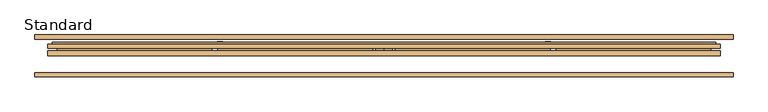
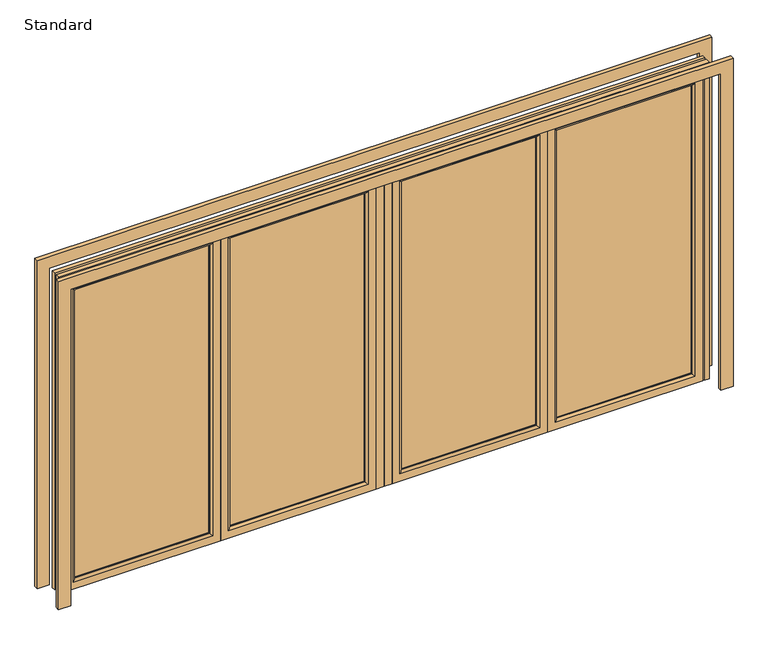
"""IFC4 building model written with IfcOpenShell, lengths in millimetres: door geometry, SMARTS_Visofold1000 : Standard."""

from ifc_helpers import new_model, si_unit, point, frame, frame_2d, origin, origin_with_axes, place, context, project, spatial, polyline, circle_curve, ellipse_curve, trimmed, segment, composite_curve, outline, extrude, faceted_brep, source, transform, mapped, element, save
from ifc_brep_helpers import plane_surface, cylinder_surface, advanced_brep


def standard_935e7b8d(model_context):
    return source(origin(), model_context, "Body", "SolidModel", [
        extrude(outline(composite_curve([segment(polyline([(1228.0996413, 959.0), (1040.0996413, 959.0)]), True, "CONTINUOUS"), segment(trimmed(circle_curve(frame_2d((1040.0996413, 975.0)), 16.0), [point((1040.0996413, 959.0))], [point((1040.0996413, 991.0))], False, "CARTESIAN"), True, "CONTINUOUS"), segment(polyline([(1040.0996413, 991.0), (1228.0996413, 991.0)]), True, "CONTINUOUS"), segment(trimmed(circle_curve(frame_2d((1228.0996413, 975.0)), 16.0), [point((1228.0996413, 991.0))], [point((1228.0996413, 959.0))], False, "CARTESIAN"), True, "CONTINUOUS")], self_intersect=False)), frame((0.0, 75.0, 0.0), z_axis=(0.0, 1.0, 0.0), x_axis=(0.0, 0.0, 1.0)), (0.0, 0.0, 1.0), 10.0),
        extrude(outline(polyline([(45.0, 960.0), (1955.0, 960.0), (1955.0, 95.0), (45.0, 95.0), (45.0, 960.0)]), holes=[polyline([(1939.5, 944.5), (60.5, 944.5), (60.5, 110.5), (1939.5, 110.5), (1939.5, 944.5)])]), frame((0.0, 17.4, 0.0), z_axis=(0.0, 1.0, 0.0), x_axis=(0.0, 0.0, 1.0)), (0.0, 0.0, 1.0), 35.0),
        faceted_brep([(1005.0, 74.4, 0.0), (1005.0, 74.4, 2000.0), (1005.0, 52.4, 2000.0), (1005.0, 52.4, 0.0), (944.5, 52.4, 60.5), (944.5, 52.4, 1939.5), (944.5, 74.4, 1939.5), (944.5, 74.4, 60.5), (50.0, 74.4, 2000.0), (50.0, 52.4, 2000.0), (110.5, 52.4, 1939.5), (110.5, 74.4, 1939.5), (50.0, 74.4, 0.0), (50.0, 52.4, 0.0), (110.5, 52.4, 60.5), (110.5, 74.4, 60.5), (987.1308519, 34.8, 17.8691481), (987.1308519, 34.8, 1982.1308519), (67.8691481, 34.8, 1982.1308519), (67.8691481, 34.8, 17.8691481), (960.0, 34.8, 1955.0), (960.0, 34.8, 45.0), (95.0, 34.8, 45.0), (95.0, 34.8, 1955.0), (987.1308519, 52.4, 17.8691481), (987.1308519, 52.4, 1982.1308519), (960.0, 52.4, 1955.0), (960.0, 52.4, 45.0), (67.8691481, 52.4, 1982.1308519), (95.0, 52.4, 1955.0), (67.8691481, 52.4, 17.8691481), (95.0, 52.4, 45.0)], [[[0, 1, 2, 3]], [[4, 5, 6, 7]], [[1, 8, 9, 2]], [[5, 10, 11, 6]], [[8, 12, 13, 9]], [[10, 14, 15, 11]], [[12, 0, 3, 13]], [[1, 0, 12, 8], [7, 6, 11, 15]], [[14, 4, 7, 15]], [[16, 17, 18, 19], [20, 21, 22, 23]], [[24, 25, 17, 16]], [[21, 20, 26, 27]], [[25, 28, 18, 17]], [[20, 23, 29, 26]], [[28, 30, 19, 18]], [[23, 22, 31, 29]], [[30, 24, 16, 19]], [[3, 2, 9, 13], [25, 24, 30, 28]], [[27, 26, 29, 31], [5, 4, 14, 10]], [[22, 21, 27, 31]]]),
        advanced_brep(
        [(944.5, 13.3, 60.5), (944.5, 13.3, 1939.5), (944.5, 17.4, 1939.5), (944.5, 17.4, 60.5), (1005.0, 17.4, 0.0), (1005.0, 17.4, 2000.0), (1005.0, 0.0, 2000.0), (1005.0, 0.0, 0.0), (110.5, 13.3, 1939.5), (110.5, 17.4, 1939.5), (50.0, 17.4, 2000.0), (50.0, 0.0, 2000.0), (110.5, 13.3, 60.5), (110.5, 17.4, 60.5), (50.0, 17.4, 0.0), (50.0, 0.0, 0.0), (957.8, 0.0, 1952.8), (957.8, 0.0, 47.2), (97.2, 0.0, 47.2), (97.2, 0.0, 1952.8), (987.1308519, 34.8, 17.8691481), (987.1308519, 34.8, 1982.1308519), (987.1308519, 17.4, 1982.1308519), (987.1308519, 17.4, 17.8691481), (67.8691481, 34.8, 1982.1308519), (67.8691481, 17.4, 1982.1308519), (67.8691481, 34.8, 17.8691481), (67.8691481, 17.4, 17.8691481), (960.0, 17.4, 45.0), (960.0, 17.4, 1955.0), (960.0, 34.8, 1955.0), (960.0, 34.8, 45.0), (95.0, 17.4, 1955.0), (95.0, 34.8, 1955.0), (95.0, 17.4, 45.0), (95.0, 34.8, 45.0)],
        [
            (0, 1),
            (1, 2),
            (2, 3),
            (3, 0),
            (4, 5),
            (5, 6),
            (6, 7),
            (7, 4),
            (1, 8),
            (8, 9),
            (9, 2),
            (5, 10),
            (10, 11),
            (11, 6),
            (8, 12),
            (12, 13),
            (13, 9),
            (10, 14),
            (14, 15),
            (15, 11),
            (12, 0),
            (3, 13),
            (15, 7),
            (16, 17),
            (17, 18),
            (18, 19),
            (19, 16),
            (14, 4),
            (16, 1, ellipse_curve(frame((957.8, 13.3, 1952.8), z_axis=(0.7071067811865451, 0.0, -0.7071067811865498), x_axis=(-0.7071067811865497, 0.0, -0.7071067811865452)), 18.8090404, 13.3)),
            (0, 17, ellipse_curve(frame((957.8, 13.3, 47.2), z_axis=(0.7071067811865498, 0.0, 0.7071067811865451), x_axis=(0.707106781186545, 0.0, -0.70710678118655)), 18.8090404, 13.3)),
            (19, 8, ellipse_curve(frame((97.2, 13.3, 1952.8), z_axis=(0.7071067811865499, 0.0, 0.7071067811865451), x_axis=(0.7071067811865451, 0.0, -0.7071067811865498)), 18.8090404, 13.3)),
            (18, 12, ellipse_curve(frame((97.2, 13.3, 47.2), z_axis=(-0.7071067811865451, 0.0, 0.7071067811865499), x_axis=(0.7071067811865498, 0.0, 0.7071067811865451)), 18.8090404, 13.3)),
            (20, 21),
            (21, 22),
            (22, 23),
            (23, 20),
            (21, 24),
            (24, 25),
            (25, 22),
            (24, 26),
            (26, 27),
            (27, 25),
            (27, 23),
            (26, 20),
            (28, 29),
            (29, 30),
            (30, 31),
            (31, 28),
            (29, 32),
            (32, 33),
            (33, 30),
            (32, 34),
            (34, 35),
            (35, 33),
            (34, 28),
            (31, 35),
        ],
        [
            plane_surface(frame((944.5, 17.4, 60.5), z_axis=(-1.0, 0.0, 0.0), x_axis=(0.0, 0.0, 1.0))),
            plane_surface(frame((1005.0, 0.0, 0.0), z_axis=(1.0, 0.0, 0.0), x_axis=(0.0, 0.0, 1.0))),
            plane_surface(frame((944.5, 17.4, 1939.5), z_axis=(0.0, 0.0, -1.0), x_axis=(-1.0, 0.0, 0.0))),
            plane_surface(frame((1005.0, 0.0, 2000.0), z_axis=(0.0, 0.0, 1.0), x_axis=(-1.0, 0.0, 0.0))),
            plane_surface(frame((110.5, 17.4, 1939.5), z_axis=(1.0, 0.0, 0.0), x_axis=(0.0, 0.0, -1.0))),
            plane_surface(frame((50.0, 0.0, 2000.0), z_axis=(-1.0, 0.0, 0.0), x_axis=(0.0, 0.0, -1.0))),
            plane_surface(frame((110.5, 17.4, 60.5), z_axis=(0.0, 0.0, 1.0), x_axis=(1.0, 0.0, 0.0))),
            plane_surface(frame((97.2, 0.0, 47.2), z_axis=(0.0, -1.0, 0.0), x_axis=(1.0, 0.0, 0.0))),
            plane_surface(frame((50.0, 0.0, 0.0), z_axis=(0.0, 0.0, -1.0), x_axis=(1.0, 0.0, 0.0))),
            cylinder_surface(frame((957.8, 13.3, 0.0), z_axis=(0.0, 0.0, -1.0), x_axis=(0.0, 1.0, 0.0)), 13.3),
            cylinder_surface(frame((1005.0, 13.3, 1952.8), z_axis=(1.0, 0.0, 0.0), x_axis=(0.0, 1.0, 0.0)), 13.3),
            cylinder_surface(frame((97.2, 13.3, 2000.0), z_axis=(0.0, 0.0, 1.0), x_axis=(0.0, 1.0, 0.0)), 13.3),
            cylinder_surface(frame((50.0, 13.3, 47.2), z_axis=(-1.0, 0.0, 0.0), x_axis=(0.0, 1.0, 0.0)), 13.3),
            plane_surface(frame((987.1308519, 17.4, 17.8691481), z_axis=(1.0, 0.0, 0.0), x_axis=(0.0, 0.0, 1.0))),
            plane_surface(frame((987.1308519, 17.4, 1982.1308519), z_axis=(0.0, 0.0, 1.0), x_axis=(-1.0, 0.0, 0.0))),
            plane_surface(frame((67.8691481, 17.4, 1982.1308519), z_axis=(-1.0, 0.0, 0.0), x_axis=(0.0, 0.0, -1.0))),
            plane_surface(frame((50.0, 17.4, 0.0), z_axis=(0.0, 1.0, 0.0), x_axis=(1.0, 0.0, 0.0))),
            plane_surface(frame((67.8691481, 17.4, 17.8691481), z_axis=(0.0, 0.0, -1.0), x_axis=(1.0, 0.0, 0.0))),
            plane_surface(frame((960.0, 34.8, 45.0), z_axis=(-1.0, 0.0, 0.0), x_axis=(0.0, 0.0, 1.0))),
            plane_surface(frame((960.0, 34.8, 1955.0), z_axis=(0.0, 0.0, -1.0), x_axis=(-1.0, 0.0, 0.0))),
            plane_surface(frame((95.0, 34.8, 1955.0), z_axis=(1.0, 0.0, 0.0), x_axis=(0.0, 0.0, -1.0))),
            plane_surface(frame((95.0, 34.8, 45.0), z_axis=(0.0, 0.0, 1.0), x_axis=(1.0, 0.0, 0.0))),
            plane_surface(frame((95.0, 17.4, 45.0), z_axis=(0.0, 1.0, 0.0), x_axis=(1.0, 0.0, 0.0))),
            plane_surface(frame((67.8691481, 34.8, 17.8691481), z_axis=(0.0, 1.0, 0.0), x_axis=(1.0, 0.0, 0.0))),
        ],
        [
            (0, [[1, 2, 3, 4]]),
            (1, [[5, 6, 7, 8]]),
            (2, [[9, 10, 11, -2]]),
            (3, [[12, 13, 14, -6]]),
            (4, [[15, 16, 17, -10]]),
            (5, [[18, 19, 20, -13]]),
            (6, [[21, -4, 22, -16]]),
            (7, [[-7, -14, -20, 23], [24, 25, 26, 27]]),
            (8, [[28, -8, -23, -19]]),
            (9, [[-24, 29, -1, 30]]),
            (10, [[-27, 31, -9, -29]]),
            (11, [[-26, 32, -15, -31]]),
            (12, [[-25, -30, -21, -32]]),
            (13, [[33, 34, 35, 36]]),
            (14, [[37, 38, 39, -34]]),
            (15, [[40, 41, 42, -38]]),
            (16, [[-5, -28, -18, -12], [-35, -39, -42, 43]]),
            (17, [[44, -36, -43, -41]]),
            (18, [[45, 46, 47, 48]]),
            (19, [[49, 50, 51, -46]]),
            (20, [[52, 53, 54, -50]]),
            (21, [[55, -48, 56, -53]]),
            (22, [[-45, -55, -52, -49], [-3, -11, -17, -22]]),
            (23, [[-33, -44, -40, -37], [-47, -51, -54, -56]]),
        ],
    ),
        extrude(outline(polyline([(944.5, 50.1484783), (944.5, 21.4), (110.5, 21.4), (110.5, 50.1484783), (944.5, 50.1484783)])), frame((0.0, 0.0, 60.5), z_axis=(0.0, 0.0, 1.0), x_axis=(1.0, 0.0, 0.0)), (0.0, 0.0, 1.0), 1879.0),
        extrude(outline(polyline([(45.0, 1050.0), (45.0, 1915.0), (1955.0, 1915.0), (1955.0, 1050.0), (45.0, 1050.0)]), holes=[polyline([(1939.5, 1065.5), (1939.5, 1899.5), (60.5, 1899.5), (60.5, 1065.5), (1939.5, 1065.5)])]), frame((0.0, 17.4, 0.0), z_axis=(0.0, 1.0, 0.0), x_axis=(0.0, 0.0, 1.0)), (0.0, 0.0, 1.0), 35.0),
        faceted_brep([(1005.0, 74.4, 0.0), (1005.0, 52.4, 0.0), (1005.0, 52.4, 2000.0), (1005.0, 74.4, 2000.0), (1065.5, 52.4, 60.5), (1065.5, 74.4, 60.5), (1065.5, 74.4, 1939.5), (1065.5, 52.4, 1939.5), (1960.0, 74.4, 0.0), (1960.0, 52.4, 0.0), (1960.0, 52.4, 2000.0), (1960.0, 74.4, 2000.0), (1899.5, 74.4, 1939.5), (1899.5, 52.4, 1939.5), (1899.5, 74.4, 60.5), (1899.5, 52.4, 60.5), (1022.8691481, 34.8, 17.8691481), (1942.1308519, 34.8, 17.8691481), (1942.1308519, 34.8, 1982.1308519), (1022.8691481, 34.8, 1982.1308519), (1050.0, 34.8, 1955.0), (1915.0, 34.8, 1955.0), (1915.0, 34.8, 45.0), (1050.0, 34.8, 45.0), (1022.8691481, 52.4, 17.8691481), (1022.8691481, 52.4, 1982.1308519), (1050.0, 52.4, 45.0), (1050.0, 52.4, 1955.0), (1942.1308519, 52.4, 1982.1308519), (1915.0, 52.4, 1955.0), (1942.1308519, 52.4, 17.8691481), (1915.0, 52.4, 45.0)], [[[0, 1, 2, 3]], [[4, 5, 6, 7]], [[8, 9, 1, 0]], [[3, 2, 10, 11]], [[7, 6, 12, 13]], [[11, 10, 9, 8]], [[13, 12, 14, 15]], [[3, 11, 8, 0], [5, 14, 12, 6]], [[15, 14, 5, 4]], [[16, 17, 18, 19], [20, 21, 22, 23]], [[24, 16, 19, 25]], [[23, 26, 27, 20]], [[25, 19, 18, 28]], [[20, 27, 29, 21]], [[28, 18, 17, 30]], [[21, 29, 31, 22]], [[30, 17, 16, 24]], [[1, 9, 10, 2], [25, 28, 30, 24]], [[26, 31, 29, 27], [7, 13, 15, 4]], [[22, 31, 26, 23]]]),
        advanced_brep(
        [(1065.5, 13.3, 60.5), (1065.5, 17.4, 60.5), (1065.5, 17.4, 1939.5), (1065.5, 13.3, 1939.5), (1005.0, 17.4, 0.0), (1005.0, 0.0, 0.0), (1005.0, 0.0, 2000.0), (1005.0, 17.4, 2000.0), (1899.5, 17.4, 1939.5), (1899.5, 13.3, 1939.5), (1960.0, 0.0, 2000.0), (1960.0, 17.4, 2000.0), (1899.5, 17.4, 60.5), (1899.5, 13.3, 60.5), (1960.0, 0.0, 0.0), (1960.0, 17.4, 0.0), (1052.2, 0.0, 1952.8), (1912.8, 0.0, 1952.8), (1912.8, 0.0, 47.2), (1052.2, 0.0, 47.2), (1022.8691481, 34.8, 17.8691481), (1022.8691481, 17.4, 17.8691481), (1022.8691481, 17.4, 1982.1308519), (1022.8691481, 34.8, 1982.1308519), (1942.1308519, 17.4, 1982.1308519), (1942.1308519, 34.8, 1982.1308519), (1942.1308519, 17.4, 17.8691481), (1942.1308519, 34.8, 17.8691481), (1050.0, 17.4, 45.0), (1050.0, 34.8, 45.0), (1050.0, 34.8, 1955.0), (1050.0, 17.4, 1955.0), (1915.0, 34.8, 1955.0), (1915.0, 17.4, 1955.0), (1915.0, 34.8, 45.0), (1915.0, 17.4, 45.0)],
        [
            (0, 1),
            (1, 2),
            (2, 3),
            (3, 0),
            (4, 5),
            (5, 6),
            (6, 7),
            (7, 4),
            (2, 8),
            (8, 9),
            (9, 3),
            (6, 10),
            (10, 11),
            (11, 7),
            (8, 12),
            (12, 13),
            (13, 9),
            (10, 14),
            (14, 15),
            (15, 11),
            (12, 1),
            (0, 13),
            (5, 14),
            (16, 17),
            (17, 18),
            (18, 19),
            (19, 16),
            (4, 15),
            (19, 0, ellipse_curve(frame((1052.2, 13.3, 47.2), z_axis=(-0.7071067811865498, 0.0, 0.7071067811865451), x_axis=(-0.707106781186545, 0.0, -0.70710678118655)), 18.8090404, 13.3)),
            (3, 16, ellipse_curve(frame((1052.2, 13.3, 1952.8), z_axis=(-0.7071067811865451, 0.0, -0.7071067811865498), x_axis=(0.7071067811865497, 0.0, -0.7071067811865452)), 18.8090404, 13.3)),
            (9, 17, ellipse_curve(frame((1912.8, 13.3, 1952.8), z_axis=(-0.7071067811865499, 0.0, 0.7071067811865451), x_axis=(-0.7071067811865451, 0.0, -0.7071067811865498)), 18.8090404, 13.3)),
            (13, 18, ellipse_curve(frame((1912.8, 13.3, 47.2), z_axis=(0.7071067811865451, 0.0, 0.7071067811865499), x_axis=(-0.7071067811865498, 0.0, 0.7071067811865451)), 18.8090404, 13.3)),
            (20, 21),
            (21, 22),
            (22, 23),
            (23, 20),
            (22, 24),
            (24, 25),
            (25, 23),
            (24, 26),
            (26, 27),
            (27, 25),
            (21, 26),
            (20, 27),
            (28, 29),
            (29, 30),
            (30, 31),
            (31, 28),
            (30, 32),
            (32, 33),
            (33, 31),
            (32, 34),
            (34, 35),
            (35, 33),
            (34, 29),
            (28, 35),
        ],
        [
            plane_surface(frame((1065.5, 17.4, 60.5), z_axis=(1.0, 0.0, 0.0), x_axis=(0.0, 0.0, 1.0))),
            plane_surface(frame((1005.0, 0.0, 0.0), z_axis=(-1.0, 0.0, 0.0), x_axis=(0.0, 0.0, 1.0))),
            plane_surface(frame((1065.5, 17.4, 1939.5), z_axis=(0.0, 0.0, -1.0), x_axis=(1.0, 0.0, 0.0))),
            plane_surface(frame((1005.0, 0.0, 2000.0), z_axis=(0.0, 0.0, 1.0), x_axis=(1.0, 0.0, 0.0))),
            plane_surface(frame((1899.5, 17.4, 1939.5), z_axis=(-1.0, 0.0, 0.0), x_axis=(0.0, 0.0, -1.0))),
            plane_surface(frame((1960.0, 0.0, 2000.0), z_axis=(1.0, 0.0, 0.0), x_axis=(0.0, 0.0, -1.0))),
            plane_surface(frame((1899.5, 17.4, 60.5), z_axis=(0.0, 0.0, 1.0), x_axis=(-1.0, 0.0, 0.0))),
            plane_surface(frame((1912.8, 0.0, 47.2), z_axis=(0.0, -1.0, 0.0), x_axis=(-1.0, 0.0, 0.0))),
            plane_surface(frame((1960.0, 0.0, 0.0), z_axis=(0.0, 0.0, -1.0), x_axis=(-1.0, 0.0, 0.0))),
            cylinder_surface(frame((1052.2, 13.3, 0.0), z_axis=(0.0, 0.0, -1.0), x_axis=(0.0, 1.0, 0.0)), 13.3),
            cylinder_surface(frame((1005.0, 13.3, 1952.8), z_axis=(-1.0, 0.0, 0.0), x_axis=(0.0, 1.0, 0.0)), 13.3),
            cylinder_surface(frame((1912.8, 13.3, 2000.0), z_axis=(0.0, 0.0, 1.0), x_axis=(0.0, 1.0, 0.0)), 13.3),
            cylinder_surface(frame((1960.0, 13.3, 47.2), z_axis=(1.0, 0.0, 0.0), x_axis=(0.0, 1.0, 0.0)), 13.3),
            plane_surface(frame((1022.8691481, 17.4, 17.8691481), z_axis=(-1.0, 0.0, 0.0), x_axis=(0.0, 0.0, 1.0))),
            plane_surface(frame((1022.8691481, 17.4, 1982.1308519), z_axis=(0.0, 0.0, 1.0), x_axis=(1.0, 0.0, 0.0))),
            plane_surface(frame((1942.1308519, 17.4, 1982.1308519), z_axis=(1.0, 0.0, 0.0), x_axis=(0.0, 0.0, -1.0))),
            plane_surface(frame((1960.0, 17.4, 0.0), z_axis=(0.0, 1.0, 0.0), x_axis=(-1.0, 0.0, 0.0))),
            plane_surface(frame((1942.1308519, 17.4, 17.8691481), z_axis=(0.0, 0.0, -1.0), x_axis=(-1.0, 0.0, 0.0))),
            plane_surface(frame((1050.0, 34.8, 45.0), z_axis=(1.0, 0.0, 0.0), x_axis=(0.0, 0.0, 1.0))),
            plane_surface(frame((1050.0, 34.8, 1955.0), z_axis=(0.0, 0.0, -1.0), x_axis=(1.0, 0.0, 0.0))),
            plane_surface(frame((1915.0, 34.8, 1955.0), z_axis=(-1.0, 0.0, 0.0), x_axis=(0.0, 0.0, -1.0))),
            plane_surface(frame((1915.0, 34.8, 45.0), z_axis=(0.0, 0.0, 1.0), x_axis=(-1.0, 0.0, 0.0))),
            plane_surface(frame((1915.0, 17.4, 45.0), z_axis=(0.0, 1.0, 0.0), x_axis=(-1.0, 0.0, 0.0))),
            plane_surface(frame((1942.1308519, 34.8, 17.8691481), z_axis=(0.0, 1.0, 0.0), x_axis=(-1.0, 0.0, 0.0))),
        ],
        [
            (0, [[1, 2, 3, 4]]),
            (1, [[5, 6, 7, 8]]),
            (2, [[-3, 9, 10, 11]]),
            (3, [[-7, 12, 13, 14]]),
            (4, [[-10, 15, 16, 17]]),
            (5, [[-13, 18, 19, 20]]),
            (6, [[-16, 21, -1, 22]]),
            (7, [[23, -18, -12, -6], [24, 25, 26, 27]]),
            (8, [[-19, -23, -5, 28]]),
            (9, [[29, -4, 30, -27]]),
            (10, [[-30, -11, 31, -24]]),
            (11, [[-31, -17, 32, -25]]),
            (12, [[-32, -22, -29, -26]]),
            (13, [[33, 34, 35, 36]]),
            (14, [[-35, 37, 38, 39]]),
            (15, [[-38, 40, 41, 42]]),
            (16, [[-14, -20, -28, -8], [43, -40, -37, -34]]),
            (17, [[-41, -43, -33, 44]]),
            (18, [[45, 46, 47, 48]]),
            (19, [[-47, 49, 50, 51]]),
            (20, [[-50, 52, 53, 54]]),
            (21, [[-53, 55, -45, 56]]),
            (22, [[-51, -54, -56, -48], [-21, -15, -9, -2]]),
            (23, [[-39, -42, -44, -36], [-55, -52, -49, -46]]),
        ],
    ),
        extrude(outline(polyline([(1065.5, 50.1484783), (1899.5, 50.1484783), (1899.5, 21.4), (1065.5, 21.4), (1065.5, 50.1484783)])), frame((0.0, 0.0, 60.5), z_axis=(0.0, 0.0, 1.0), x_axis=(1.0, 0.0, 0.0)), (0.0, 0.0, 1.0), 1879.0),
        extrude(outline(polyline([(0.0, 0.0), (0.0, 75.1750992), (50.0, 75.1750992), (50.0, 0.0), (0.0, 0.0)])), origin_with_axes(), (0.0, 0.0, 1.0), 2000.0),
        extrude(outline(composite_curve([segment(trimmed(circle_curve(frame_2d((1228.0996413, -975.0)), 16.0), [point((1228.0996413, -959.0))], [point((1228.0996413, -991.0))], False, "CARTESIAN"), True, "CONTINUOUS"), segment(polyline([(1228.0996413, -991.0), (1040.0996413, -991.0)]), True, "CONTINUOUS"), segment(trimmed(circle_curve(frame_2d((1040.0996413, -975.0)), 16.0), [point((1040.0996413, -991.0))], [point((1040.0996413, -959.0))], False, "CARTESIAN"), True, "CONTINUOUS"), segment(polyline([(1040.0996413, -959.0), (1228.0996413, -959.0)]), True, "CONTINUOUS")], self_intersect=False)), frame((0.0, 75.0, 0.0), z_axis=(0.0, 1.0, 0.0), x_axis=(0.0, 0.0, 1.0)), (0.0, 0.0, 1.0), 10.0),
        extrude(outline(polyline([(45.0, -960.0), (45.0, -95.0), (1955.0, -95.0), (1955.0, -960.0), (45.0, -960.0)]), holes=[polyline([(1939.5, -944.5), (1939.5, -110.5), (60.5, -110.5), (60.5, -944.5), (1939.5, -944.5)])]), frame((0.0, 17.4, 0.0), z_axis=(0.0, 1.0, 0.0), x_axis=(0.0, 0.0, 1.0)), (0.0, 0.0, 1.0), 35.0),
        faceted_brep([(-1005.0, 74.4, 0.0), (-1005.0, 52.4, 0.0), (-1005.0, 52.4, 2000.0), (-1005.0, 74.4, 2000.0), (-944.5, 52.4, 60.5), (-944.5, 74.4, 60.5), (-944.5, 74.4, 1939.5), (-944.5, 52.4, 1939.5), (-50.0, 52.4, 2000.0), (-50.0, 74.4, 2000.0), (-110.5, 74.4, 1939.5), (-110.5, 52.4, 1939.5), (-50.0, 52.4, 0.0), (-50.0, 74.4, 0.0), (-110.5, 74.4, 60.5), (-110.5, 52.4, 60.5), (-987.1308519, 34.8, 17.8691481), (-67.8691481, 34.8, 17.8691481), (-67.8691481, 34.8, 1982.1308519), (-987.1308519, 34.8, 1982.1308519), (-960.0, 34.8, 1955.0), (-95.0, 34.8, 1955.0), (-95.0, 34.8, 45.0), (-960.0, 34.8, 45.0), (-987.1308519, 52.4, 17.8691481), (-987.1308519, 52.4, 1982.1308519), (-960.0, 52.4, 45.0), (-960.0, 52.4, 1955.0), (-67.8691481, 52.4, 1982.1308519), (-95.0, 52.4, 1955.0), (-67.8691481, 52.4, 17.8691481), (-95.0, 52.4, 45.0)], [[[0, 1, 2, 3]], [[4, 5, 6, 7]], [[3, 2, 8, 9]], [[7, 6, 10, 11]], [[9, 8, 12, 13]], [[11, 10, 14, 15]], [[13, 12, 1, 0]], [[3, 9, 13, 0], [5, 14, 10, 6]], [[15, 14, 5, 4]], [[16, 17, 18, 19], [20, 21, 22, 23]], [[24, 16, 19, 25]], [[23, 26, 27, 20]], [[25, 19, 18, 28]], [[20, 27, 29, 21]], [[28, 18, 17, 30]], [[21, 29, 31, 22]], [[30, 17, 16, 24]], [[1, 12, 8, 2], [25, 28, 30, 24]], [[26, 31, 29, 27], [7, 11, 15, 4]], [[22, 31, 26, 23]]]),
        advanced_brep(
        [(-944.5, 13.3, 60.5), (-944.5, 17.4, 60.5), (-944.5, 17.4, 1939.5), (-944.5, 13.3, 1939.5), (-1005.0, 17.4, 0.0), (-1005.0, 0.0, 0.0), (-1005.0, 0.0, 2000.0), (-1005.0, 17.4, 2000.0), (-110.5, 17.4, 1939.5), (-110.5, 13.3, 1939.5), (-50.0, 0.0, 2000.0), (-50.0, 17.4, 2000.0), (-110.5, 17.4, 60.5), (-110.5, 13.3, 60.5), (-50.0, 0.0, 0.0), (-50.0, 17.4, 0.0), (-957.8, 0.0, 1952.8), (-97.2, 0.0, 1952.8), (-97.2, 0.0, 47.2), (-957.8, 0.0, 47.2), (-987.1308519, 34.8, 17.8691481), (-987.1308519, 17.4, 17.8691481), (-987.1308519, 17.4, 1982.1308519), (-987.1308519, 34.8, 1982.1308519), (-67.8691481, 17.4, 1982.1308519), (-67.8691481, 34.8, 1982.1308519), (-67.8691481, 17.4, 17.8691481), (-67.8691481, 34.8, 17.8691481), (-960.0, 17.4, 45.0), (-960.0, 34.8, 45.0), (-960.0, 34.8, 1955.0), (-960.0, 17.4, 1955.0), (-95.0, 34.8, 1955.0), (-95.0, 17.4, 1955.0), (-95.0, 34.8, 45.0), (-95.0, 17.4, 45.0)],
        [
            (0, 1),
            (1, 2),
            (2, 3),
            (3, 0),
            (4, 5),
            (5, 6),
            (6, 7),
            (7, 4),
            (2, 8),
            (8, 9),
            (9, 3),
            (6, 10),
            (10, 11),
            (11, 7),
            (8, 12),
            (12, 13),
            (13, 9),
            (10, 14),
            (14, 15),
            (15, 11),
            (12, 1),
            (0, 13),
            (5, 14),
            (16, 17),
            (17, 18),
            (18, 19),
            (19, 16),
            (4, 15),
            (19, 0, ellipse_curve(frame((-957.8, 13.3, 47.2), z_axis=(-0.7071067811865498, 0.0, 0.7071067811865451), x_axis=(-0.707106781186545, 0.0, -0.70710678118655)), 18.8090404, 13.3)),
            (3, 16, ellipse_curve(frame((-957.8, 13.3, 1952.8), z_axis=(-0.7071067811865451, 0.0, -0.7071067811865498), x_axis=(0.7071067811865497, 0.0, -0.7071067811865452)), 18.8090404, 13.3)),
            (9, 17, ellipse_curve(frame((-97.2, 13.3, 1952.8), z_axis=(-0.7071067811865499, 0.0, 0.7071067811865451), x_axis=(-0.7071067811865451, 0.0, -0.7071067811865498)), 18.8090404, 13.3)),
            (13, 18, ellipse_curve(frame((-97.2, 13.3, 47.2), z_axis=(0.7071067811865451, 0.0, 0.7071067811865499), x_axis=(-0.7071067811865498, 0.0, 0.7071067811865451)), 18.8090404, 13.3)),
            (20, 21),
            (21, 22),
            (22, 23),
            (23, 20),
            (22, 24),
            (24, 25),
            (25, 23),
            (24, 26),
            (26, 27),
            (27, 25),
            (21, 26),
            (20, 27),
            (28, 29),
            (29, 30),
            (30, 31),
            (31, 28),
            (30, 32),
            (32, 33),
            (33, 31),
            (32, 34),
            (34, 35),
            (35, 33),
            (34, 29),
            (28, 35),
        ],
        [
            plane_surface(frame((-944.5, 17.4, 60.5), z_axis=(1.0, 0.0, 0.0), x_axis=(0.0, 0.0, 1.0))),
            plane_surface(frame((-1005.0, 0.0, 0.0), z_axis=(-1.0, 0.0, 0.0), x_axis=(0.0, 0.0, 1.0))),
            plane_surface(frame((-944.5, 17.4, 1939.5), z_axis=(0.0, 0.0, -1.0), x_axis=(1.0, 0.0, 0.0))),
            plane_surface(frame((-1005.0, 0.0, 2000.0), z_axis=(0.0, 0.0, 1.0), x_axis=(1.0, 0.0, 0.0))),
            plane_surface(frame((-110.5, 17.4, 1939.5), z_axis=(-1.0, 0.0, 0.0), x_axis=(0.0, 0.0, -1.0))),
            plane_surface(frame((-50.0, 0.0, 2000.0), z_axis=(1.0, 0.0, 0.0), x_axis=(0.0, 0.0, -1.0))),
            plane_surface(frame((-110.5, 17.4, 60.5), z_axis=(0.0, 0.0, 1.0), x_axis=(-1.0, 0.0, 0.0))),
            plane_surface(frame((-97.2, 0.0, 47.2), z_axis=(0.0, -1.0, 0.0), x_axis=(-1.0, 0.0, 0.0))),
            plane_surface(frame((-50.0, 0.0, 0.0), z_axis=(0.0, 0.0, -1.0), x_axis=(-1.0, 0.0, 0.0))),
            cylinder_surface(frame((-957.8, 13.3, 0.0), z_axis=(0.0, 0.0, -1.0), x_axis=(0.0, 1.0, 0.0)), 13.3),
            cylinder_surface(frame((-1005.0, 13.3, 1952.8), z_axis=(-1.0, 0.0, 0.0), x_axis=(0.0, 1.0, 0.0)), 13.3),
            cylinder_surface(frame((-97.2, 13.3, 2000.0), z_axis=(0.0, 0.0, 1.0), x_axis=(0.0, 1.0, 0.0)), 13.3),
            cylinder_surface(frame((-50.0, 13.3, 47.2), z_axis=(1.0, 0.0, 0.0), x_axis=(0.0, 1.0, 0.0)), 13.3),
            plane_surface(frame((-987.1308519, 17.4, 17.8691481), z_axis=(-1.0, 0.0, 0.0), x_axis=(0.0, 0.0, 1.0))),
            plane_surface(frame((-987.1308519, 17.4, 1982.1308519), z_axis=(0.0, 0.0, 1.0), x_axis=(1.0, 0.0, 0.0))),
            plane_surface(frame((-67.8691481, 17.4, 1982.1308519), z_axis=(1.0, 0.0, 0.0), x_axis=(0.0, 0.0, -1.0))),
            plane_surface(frame((-50.0, 17.4, 0.0), z_axis=(0.0, 1.0, 0.0), x_axis=(-1.0, 0.0, 0.0))),
            plane_surface(frame((-67.8691481, 17.4, 17.8691481), z_axis=(0.0, 0.0, -1.0), x_axis=(-1.0, 0.0, 0.0))),
            plane_surface(frame((-960.0, 34.8, 45.0), z_axis=(1.0, 0.0, 0.0), x_axis=(0.0, 0.0, 1.0))),
            plane_surface(frame((-960.0, 34.8, 1955.0), z_axis=(0.0, 0.0, -1.0), x_axis=(1.0, 0.0, 0.0))),
            plane_surface(frame((-95.0, 34.8, 1955.0), z_axis=(-1.0, 0.0, 0.0), x_axis=(0.0, 0.0, -1.0))),
            plane_surface(frame((-95.0, 34.8, 45.0), z_axis=(0.0, 0.0, 1.0), x_axis=(-1.0, 0.0, 0.0))),
            plane_surface(frame((-95.0, 17.4, 45.0), z_axis=(0.0, 1.0, 0.0), x_axis=(-1.0, 0.0, 0.0))),
            plane_surface(frame((-67.8691481, 34.8, 17.8691481), z_axis=(0.0, 1.0, 0.0), x_axis=(-1.0, 0.0, 0.0))),
        ],
        [
            (0, [[1, 2, 3, 4]]),
            (1, [[5, 6, 7, 8]]),
            (2, [[-3, 9, 10, 11]]),
            (3, [[-7, 12, 13, 14]]),
            (4, [[-10, 15, 16, 17]]),
            (5, [[-13, 18, 19, 20]]),
            (6, [[-16, 21, -1, 22]]),
            (7, [[23, -18, -12, -6], [24, 25, 26, 27]]),
            (8, [[-19, -23, -5, 28]]),
            (9, [[29, -4, 30, -27]]),
            (10, [[-30, -11, 31, -24]]),
            (11, [[-31, -17, 32, -25]]),
            (12, [[-32, -22, -29, -26]]),
            (13, [[33, 34, 35, 36]]),
            (14, [[-35, 37, 38, 39]]),
            (15, [[-38, 40, 41, 42]]),
            (16, [[-14, -20, -28, -8], [43, -40, -37, -34]]),
            (17, [[-41, -43, -33, 44]]),
            (18, [[45, 46, 47, 48]]),
            (19, [[-47, 49, 50, 51]]),
            (20, [[-50, 52, 53, 54]]),
            (21, [[-53, 55, -45, 56]]),
            (22, [[-51, -54, -56, -48], [-21, -15, -9, -2]]),
            (23, [[-39, -42, -44, -36], [-55, -52, -49, -46]]),
        ],
    ),
        extrude(outline(polyline([(-944.5, 50.1484783), (-110.5, 50.1484783), (-110.5, 21.4), (-944.5, 21.4), (-944.5, 50.1484783)])), frame((0.0, 0.0, 60.5), z_axis=(0.0, 0.0, 1.0), x_axis=(1.0, 0.0, 0.0)), (0.0, 0.0, 1.0), 1879.0),
        extrude(outline(polyline([(45.0, -1050.0), (1955.0, -1050.0), (1955.0, -1915.0), (45.0, -1915.0), (45.0, -1050.0)]), holes=[polyline([(1939.5, -1065.5), (60.5, -1065.5), (60.5, -1899.5), (1939.5, -1899.5), (1939.5, -1065.5)])]), frame((0.0, 17.4, 0.0), z_axis=(0.0, 1.0, 0.0), x_axis=(0.0, 0.0, 1.0)), (0.0, 0.0, 1.0), 35.0),
        faceted_brep([(-1005.0, 74.4, 0.0), (-1005.0, 74.4, 2000.0), (-1005.0, 52.4, 2000.0), (-1005.0, 52.4, 0.0), (-1065.5, 52.4, 60.5), (-1065.5, 52.4, 1939.5), (-1065.5, 74.4, 1939.5), (-1065.5, 74.4, 60.5), (-1960.0, 74.4, 0.0), (-1960.0, 52.4, 0.0), (-1960.0, 74.4, 2000.0), (-1960.0, 52.4, 2000.0), (-1899.5, 52.4, 1939.5), (-1899.5, 74.4, 1939.5), (-1899.5, 52.4, 60.5), (-1899.5, 74.4, 60.5), (-1022.8691481, 34.8, 17.8691481), (-1022.8691481, 34.8, 1982.1308519), (-1942.1308519, 34.8, 1982.1308519), (-1942.1308519, 34.8, 17.8691481), (-1050.0, 34.8, 1955.0), (-1050.0, 34.8, 45.0), (-1915.0, 34.8, 45.0), (-1915.0, 34.8, 1955.0), (-1022.8691481, 52.4, 17.8691481), (-1022.8691481, 52.4, 1982.1308519), (-1050.0, 52.4, 1955.0), (-1050.0, 52.4, 45.0), (-1942.1308519, 52.4, 1982.1308519), (-1915.0, 52.4, 1955.0), (-1942.1308519, 52.4, 17.8691481), (-1915.0, 52.4, 45.0)], [[[0, 1, 2, 3]], [[4, 5, 6, 7]], [[8, 0, 3, 9]], [[1, 10, 11, 2]], [[5, 12, 13, 6]], [[10, 8, 9, 11]], [[12, 14, 15, 13]], [[1, 0, 8, 10], [7, 6, 13, 15]], [[14, 4, 7, 15]], [[16, 17, 18, 19], [20, 21, 22, 23]], [[24, 25, 17, 16]], [[21, 20, 26, 27]], [[25, 28, 18, 17]], [[20, 23, 29, 26]], [[28, 30, 19, 18]], [[23, 22, 31, 29]], [[30, 24, 16, 19]], [[3, 2, 11, 9], [25, 24, 30, 28]], [[27, 26, 29, 31], [5, 4, 14, 12]], [[22, 21, 27, 31]]]),
        advanced_brep(
        [(-1065.5, 13.3, 60.5), (-1065.5, 13.3, 1939.5), (-1065.5, 17.4, 1939.5), (-1065.5, 17.4, 60.5), (-1005.0, 17.4, 0.0), (-1005.0, 17.4, 2000.0), (-1005.0, 0.0, 2000.0), (-1005.0, 0.0, 0.0), (-1899.5, 13.3, 1939.5), (-1899.5, 17.4, 1939.5), (-1960.0, 17.4, 2000.0), (-1960.0, 0.0, 2000.0), (-1899.5, 13.3, 60.5), (-1899.5, 17.4, 60.5), (-1960.0, 17.4, 0.0), (-1960.0, 0.0, 0.0), (-1052.2, 0.0, 1952.8), (-1052.2, 0.0, 47.2), (-1912.8, 0.0, 47.2), (-1912.8, 0.0, 1952.8), (-1022.8691481, 34.8, 17.8691481), (-1022.8691481, 34.8, 1982.1308519), (-1022.8691481, 17.4, 1982.1308519), (-1022.8691481, 17.4, 17.8691481), (-1942.1308519, 34.8, 1982.1308519), (-1942.1308519, 17.4, 1982.1308519), (-1942.1308519, 34.8, 17.8691481), (-1942.1308519, 17.4, 17.8691481), (-1050.0, 17.4, 45.0), (-1050.0, 17.4, 1955.0), (-1050.0, 34.8, 1955.0), (-1050.0, 34.8, 45.0), (-1915.0, 17.4, 1955.0), (-1915.0, 34.8, 1955.0), (-1915.0, 17.4, 45.0), (-1915.0, 34.8, 45.0)],
        [
            (0, 1),
            (1, 2),
            (2, 3),
            (3, 0),
            (4, 5),
            (5, 6),
            (6, 7),
            (7, 4),
            (1, 8),
            (8, 9),
            (9, 2),
            (5, 10),
            (10, 11),
            (11, 6),
            (8, 12),
            (12, 13),
            (13, 9),
            (10, 14),
            (14, 15),
            (15, 11),
            (12, 0),
            (3, 13),
            (15, 7),
            (16, 17),
            (17, 18),
            (18, 19),
            (19, 16),
            (14, 4),
            (16, 1, ellipse_curve(frame((-1052.2, 13.3, 1952.8), z_axis=(0.7071067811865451, 0.0, -0.7071067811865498), x_axis=(-0.7071067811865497, 0.0, -0.7071067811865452)), 18.8090404, 13.3)),
            (0, 17, ellipse_curve(frame((-1052.2, 13.3, 47.2), z_axis=(0.7071067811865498, 0.0, 0.7071067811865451), x_axis=(0.707106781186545, 0.0, -0.70710678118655)), 18.8090404, 13.3)),
            (19, 8, ellipse_curve(frame((-1912.8, 13.3, 1952.8), z_axis=(0.7071067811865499, 0.0, 0.7071067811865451), x_axis=(0.7071067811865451, 0.0, -0.7071067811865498)), 18.8090404, 13.3)),
            (18, 12, ellipse_curve(frame((-1912.8, 13.3, 47.2), z_axis=(-0.7071067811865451, 0.0, 0.7071067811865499), x_axis=(0.7071067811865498, 0.0, 0.7071067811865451)), 18.8090404, 13.3)),
            (20, 21),
            (21, 22),
            (22, 23),
            (23, 20),
            (21, 24),
            (24, 25),
            (25, 22),
            (24, 26),
            (26, 27),
            (27, 25),
            (27, 23),
            (26, 20),
            (28, 29),
            (29, 30),
            (30, 31),
            (31, 28),
            (29, 32),
            (32, 33),
            (33, 30),
            (32, 34),
            (34, 35),
            (35, 33),
            (34, 28),
            (31, 35),
        ],
        [
            plane_surface(frame((-1065.5, 17.4, 60.5), z_axis=(-1.0, 0.0, 0.0), x_axis=(0.0, 0.0, 1.0))),
            plane_surface(frame((-1005.0, 0.0, 0.0), z_axis=(1.0, 0.0, 0.0), x_axis=(0.0, 0.0, 1.0))),
            plane_surface(frame((-1065.5, 17.4, 1939.5), z_axis=(0.0, 0.0, -1.0), x_axis=(-1.0, 0.0, 0.0))),
            plane_surface(frame((-1005.0, 0.0, 2000.0), z_axis=(0.0, 0.0, 1.0), x_axis=(-1.0, 0.0, 0.0))),
            plane_surface(frame((-1899.5, 17.4, 1939.5), z_axis=(1.0, 0.0, 0.0), x_axis=(0.0, 0.0, -1.0))),
            plane_surface(frame((-1960.0, 0.0, 2000.0), z_axis=(-1.0, 0.0, 0.0), x_axis=(0.0, 0.0, -1.0))),
            plane_surface(frame((-1899.5, 17.4, 60.5), z_axis=(0.0, 0.0, 1.0), x_axis=(1.0, 0.0, 0.0))),
            plane_surface(frame((-1912.8, 0.0, 47.2), z_axis=(0.0, -1.0, 0.0), x_axis=(1.0, 0.0, 0.0))),
            plane_surface(frame((-1960.0, 0.0, 0.0), z_axis=(0.0, 0.0, -1.0), x_axis=(1.0, 0.0, 0.0))),
            cylinder_surface(frame((-1052.2, 13.3, 0.0), z_axis=(0.0, 0.0, -1.0), x_axis=(0.0, 1.0, 0.0)), 13.3),
            cylinder_surface(frame((-1005.0, 13.3, 1952.8), z_axis=(1.0, 0.0, 0.0), x_axis=(0.0, 1.0, 0.0)), 13.3),
            cylinder_surface(frame((-1912.8, 13.3, 2000.0), z_axis=(0.0, 0.0, 1.0), x_axis=(0.0, 1.0, 0.0)), 13.3),
            cylinder_surface(frame((-1960.0, 13.3, 47.2), z_axis=(-1.0, 0.0, 0.0), x_axis=(0.0, 1.0, 0.0)), 13.3),
            plane_surface(frame((-1022.8691481, 17.4, 17.8691481), z_axis=(1.0, 0.0, 0.0), x_axis=(0.0, 0.0, 1.0))),
            plane_surface(frame((-1022.8691481, 17.4, 1982.1308519), z_axis=(0.0, 0.0, 1.0), x_axis=(-1.0, 0.0, 0.0))),
            plane_surface(frame((-1942.1308519, 17.4, 1982.1308519), z_axis=(-1.0, 0.0, 0.0), x_axis=(0.0, 0.0, -1.0))),
            plane_surface(frame((-1960.0, 17.4, 0.0), z_axis=(0.0, 1.0, 0.0), x_axis=(1.0, 0.0, 0.0))),
            plane_surface(frame((-1942.1308519, 17.4, 17.8691481), z_axis=(0.0, 0.0, -1.0), x_axis=(1.0, 0.0, 0.0))),
            plane_surface(frame((-1050.0, 34.8, 45.0), z_axis=(-1.0, 0.0, 0.0), x_axis=(0.0, 0.0, 1.0))),
            plane_surface(frame((-1050.0, 34.8, 1955.0), z_axis=(0.0, 0.0, -1.0), x_axis=(-1.0, 0.0, 0.0))),
            plane_surface(frame((-1915.0, 34.8, 1955.0), z_axis=(1.0, 0.0, 0.0), x_axis=(0.0, 0.0, -1.0))),
            plane_surface(frame((-1915.0, 34.8, 45.0), z_axis=(0.0, 0.0, 1.0), x_axis=(1.0, 0.0, 0.0))),
            plane_surface(frame((-1915.0, 17.4, 45.0), z_axis=(0.0, 1.0, 0.0), x_axis=(1.0, 0.0, 0.0))),
            plane_surface(frame((-1942.1308519, 34.8, 17.8691481), z_axis=(0.0, 1.0, 0.0), x_axis=(1.0, 0.0, 0.0))),
        ],
        [
            (0, [[1, 2, 3, 4]]),
            (1, [[5, 6, 7, 8]]),
            (2, [[9, 10, 11, -2]]),
            (3, [[12, 13, 14, -6]]),
            (4, [[15, 16, 17, -10]]),
            (5, [[18, 19, 20, -13]]),
            (6, [[21, -4, 22, -16]]),
            (7, [[-7, -14, -20, 23], [24, 25, 26, 27]]),
            (8, [[28, -8, -23, -19]]),
            (9, [[-24, 29, -1, 30]]),
            (10, [[-27, 31, -9, -29]]),
            (11, [[-26, 32, -15, -31]]),
            (12, [[-25, -30, -21, -32]]),
            (13, [[33, 34, 35, 36]]),
            (14, [[37, 38, 39, -34]]),
            (15, [[40, 41, 42, -38]]),
            (16, [[-5, -28, -18, -12], [-35, -39, -42, 43]]),
            (17, [[44, -36, -43, -41]]),
            (18, [[45, 46, 47, 48]]),
            (19, [[49, 50, 51, -46]]),
            (20, [[52, 53, 54, -50]]),
            (21, [[55, -48, 56, -53]]),
            (22, [[-45, -55, -52, -49], [-3, -11, -17, -22]]),
            (23, [[-33, -44, -40, -37], [-47, -51, -54, -56]]),
        ],
    ),
        extrude(outline(polyline([(-1065.5, 50.1484783), (-1065.5, 21.4), (-1899.5, 21.4), (-1899.5, 50.1484783), (-1065.5, 50.1484783)])), frame((0.0, 0.0, 60.5), z_axis=(0.0, 0.0, 1.0), x_axis=(1.0, 0.0, 0.0)), (0.0, 0.0, 1.0), 1879.0),
        extrude(outline(polyline([(0.0, 0.0), (-50.0, 0.0), (-50.0, 75.1750992), (0.0, 75.1750992), (0.0, 0.0)])), origin_with_axes(), (0.0, 0.0, 1.0), 2000.0),
        extrude(outline(polyline([(2058.6516063, -2000.0), (2058.6516063, 2000.0), (0.0, 2000.0), (0.0, 2075.0), (2133.6516063, 2075.0), (2133.6516063, -2075.0), (0.0, -2075.0), (0.0, -2000.0), (2058.6516063, -2000.0)])), frame((0.0, 100.0, 0.0), z_axis=(0.0, 1.0, 0.0), x_axis=(0.0, 0.0, 1.0)), (0.0, 0.0, 1.0), 25.0),
        extrude(outline(polyline([(2133.6516063, -2075.0), (0.0, -2075.0), (0.0, -2000.0), (2058.6516063, -2000.0), (2058.6516063, 2000.0), (0.0, 2000.0), (0.0, 2075.0), (2133.6516063, 2075.0), (2133.6516063, -2075.0)])), frame((0.0, -125.0, 0.0), z_axis=(0.0, 1.0, 0.0), x_axis=(0.0, 0.0, 1.0)), (0.0, 0.0, 1.0), 25.0),
        extrude(outline(polyline([(0.0, 1968.8), (0.0, 2000.0), (2058.6516063, 2000.0), (2058.6516063, -2000.0), (0.0, -2000.0), (0.0, -1968.8), (2027.4516063, -1968.8), (2027.4516063, 1968.8), (0.0, 1968.8)])), frame((0.0, 0.0, 0.0), z_axis=(0.0, 1.0, 0.0), x_axis=(0.0, 0.0, 1.0)), (0.0, 0.0, 1.0), 29.65),
        faceted_brep([(2000.0, 44.85, 0.0), (1968.8, 44.85, 0.0), (1968.8, 77.4, 0.0), (1948.3, 77.4, 0.0), (1948.3, 81.9, 0.0), (1970.6, 81.9, 0.0), (1970.6, 70.0, 0.0), (2000.0, 70.0, 0.0), (2000.0, 44.85, 2058.6516063), (-2000.0, 44.85, 2058.6516063), (-2000.0, 44.85, 0.0), (-1968.8, 44.85, 0.0), (-1968.8, 44.85, 2027.4516063), (1968.8, 44.85, 2027.4516063), (1968.8, 77.4, 2027.4516063), (-1968.8, 77.4, 2027.4516063), (-1968.8, 77.4, 0.0), (-1948.3, 77.4, 0.0), (-1948.3, 77.4, 2006.9516063), (1948.3, 77.4, 2006.9516063), (1948.3, 81.9, 2006.9516063), (-1948.3, 81.9, 2006.9516063), (-1948.3, 81.9, 0.0), (-1970.6, 81.9, 0.0), (-1970.6, 81.9, 2029.2516063), (1970.6, 81.9, 2029.2516063), (1970.6, 70.0, 2029.2516063), (-1970.6, 70.0, 2029.2516063), (-1970.6, 70.0, 0.0), (-2000.0, 70.0, 0.0), (-2000.0, 70.0, 2058.6516063), (2000.0, 70.0, 2058.6516063)], [[[0, 1, 2, 3, 4, 5, 6, 7]], [[1, 0, 8, 9, 10, 11, 12, 13]], [[2, 1, 13, 14]], [[3, 2, 14, 15, 16, 17, 18, 19]], [[4, 3, 19, 20]], [[5, 4, 20, 21, 22, 23, 24, 25]], [[6, 5, 25, 26]], [[7, 6, 26, 27, 28, 29, 30, 31]], [[0, 7, 31, 8]], [[10, 29, 28, 23, 22, 17, 16, 11]], [[9, 30, 29, 10]], [[27, 24, 23, 28]], [[21, 18, 17, 22]], [[15, 12, 11, 16]], [[8, 31, 30, 9]], [[14, 13, 12, 15]], [[26, 25, 24, 27]], [[20, 19, 18, 21]]]),
    ])


if __name__ == "__main__":
    model = new_model("IFC4")
    model_context = context("Model", 3, world=origin())
    ifc_project = project(units=[si_unit("LENGTHUNIT", "METRE", prefix="MILLI")], contexts=[model_context])
    site = spatial("IfcSite", under=ifc_project)
    building = spatial("IfcBuilding", under=site)
    placement = place(None, origin())
    standard_shape = standard_935e7b8d(model_context)
    element("IfcDoor", 1, ObjectType="SMARTS_Visofold1000 : Standard", at=placement, inside=building, context=model_context, shape_type="MappedRepresentation", body=[
        mapped(standard_shape, transform((0.0, 0.0, 0.0), x_axis=(1.0, 0.0, 0.0), y_axis=(0.0, 1.0, 0.0), z_axis=(0.0, 0.0, 1.0))),
    ])
    save(model, "model.ifc")
